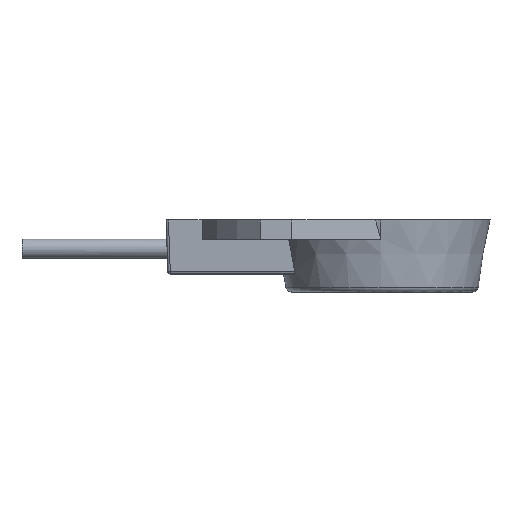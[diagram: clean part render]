
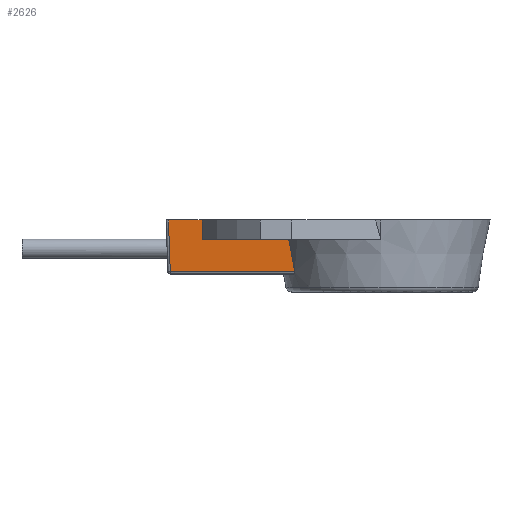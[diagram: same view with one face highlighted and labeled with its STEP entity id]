
A CAD part, left-side view. The second image highlights one B-rep face of the part: STEP entity #2626.
In plain terms, the highlighted planar face has unit normal (-0.999, 0, -0.035).
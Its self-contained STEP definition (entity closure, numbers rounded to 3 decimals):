
#2344=CARTESIAN_POINT('',(-3.85,17.65,-2.707));
#2345=VERTEX_POINT('',#2344);
#2361=CARTESIAN_POINT('',(-3.85,7.286,-2.707));
#2362=VERTEX_POINT('',#2361);
#2376=CARTESIAN_POINT('',(-3.85,7.286,-2.707));
#2377=DIRECTION('',(0.0,1.0,0.0));
#2378=VECTOR('',#2377,10.364);
#2379=LINE('',#2376,#2378);
#2380=EDGE_CURVE('',#2362,#2345,#2379,.T.);
#2561=CARTESIAN_POINT('',(-4.,17.8,1.6));
#2562=VERTEX_POINT('',#2561);
#2563=CARTESIAN_POINT('',(-3.85,17.65,-2.707));
#2564=DIRECTION('',(-0.035,0.035,0.999));
#2565=VECTOR('',#2564,4.312);
#2566=LINE('',#2563,#2565);
#2567=EDGE_CURVE('',#2345,#2562,#2566,.T.);
#2580=CARTESIAN_POINT('',(-4.,18.0,1.6));
#2581=DIRECTION('',(-0.999,0.,-0.035));
#2582=DIRECTION('',(0.0,1.0,0.0));
#2583=AXIS2_PLACEMENT_3D('',#2580,#2581,#2582);
#2584=PLANE('',#2583);
#2585=ORIENTED_EDGE('',*,*,#2380,.F.);
#2586=CARTESIAN_POINT('',(-3.944,7.775,0.0));
#2587=VERTEX_POINT('',#2586);
#2588=CARTESIAN_POINT('',(-3.944,7.775,0.0));
#2589=CARTESIAN_POINT('',(-3.895,7.523,-1.397));
#2590=CARTESIAN_POINT('',(-3.85,7.286,-2.707));
#2598=(BOUNDED_CURVE()B_SPLINE_CURVE(2,(#2588,#2589,#2590),.UNSPECIFIED.,.F.,.U.)B_SPLINE_CURVE_WITH_KNOTS((3,3),(0.157,0.437),.UNSPECIFIED.)CURVE()GEOMETRIC_REPRESENTATION_ITEM()RATIONAL_B_SPLINE_CURVE((1.001,1.001,1.))REPRESENTATION_ITEM(''));
#2599=EDGE_CURVE('',#2587,#2362,#2598,.T.);
#2600=ORIENTED_EDGE('',*,*,#2599,.F.);
#2601=CARTESIAN_POINT('',(-3.944,15.0,0.0));
#2602=VERTEX_POINT('',#2601);
#2603=CARTESIAN_POINT('',(-3.944,15.0,0.0));
#2604=DIRECTION('',(0.0,-1.0,0.0));
#2605=VECTOR('',#2604,7.225);
#2606=LINE('',#2603,#2605);
#2607=EDGE_CURVE('',#2602,#2587,#2606,.T.);
#2608=ORIENTED_EDGE('',*,*,#2607,.F.);
#2609=CARTESIAN_POINT('',(-4.,15.0,1.6));
#2610=VERTEX_POINT('',#2609);
#2611=CARTESIAN_POINT('',(-4.,15.0,1.6));
#2612=DIRECTION('',(0.035,0.0,-0.999));
#2613=VECTOR('',#2612,1.601);
#2614=LINE('',#2611,#2613);
#2615=EDGE_CURVE('',#2610,#2602,#2614,.T.);
#2616=ORIENTED_EDGE('',*,*,#2615,.F.);
#2617=CARTESIAN_POINT('',(-4.,15.0,1.6));
#2618=DIRECTION('',(0.0,1.0,0.0));
#2619=VECTOR('',#2618,2.8);
#2620=LINE('',#2617,#2619);
#2621=EDGE_CURVE('',#2610,#2562,#2620,.T.);
#2622=ORIENTED_EDGE('',*,*,#2621,.T.);
#2623=ORIENTED_EDGE('',*,*,#2567,.F.);
#2624=EDGE_LOOP('',(#2585,#2600,#2608,#2616,#2622,#2623));
#2625=FACE_OUTER_BOUND('',#2624,.T.);
#2626=ADVANCED_FACE('',(#2625),#2584,.T.);
